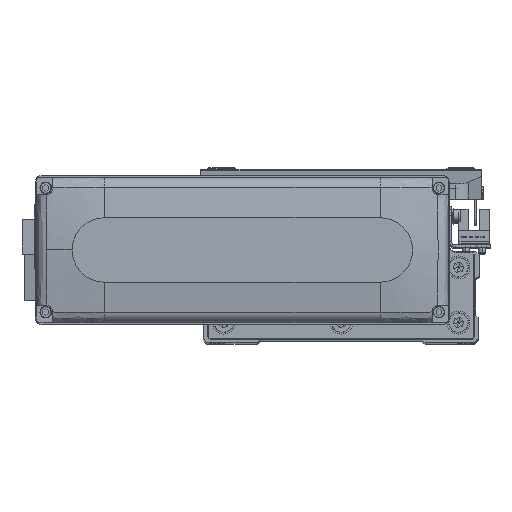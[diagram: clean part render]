
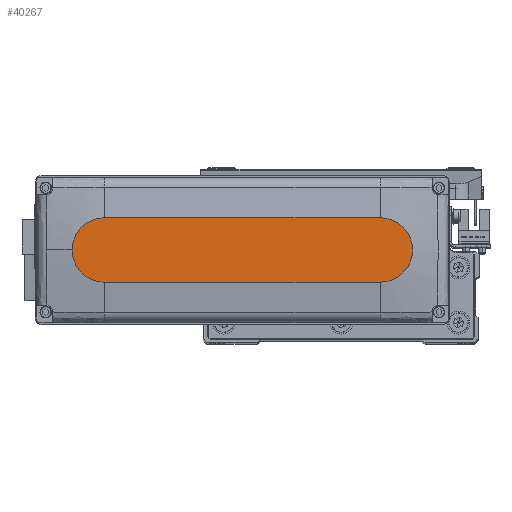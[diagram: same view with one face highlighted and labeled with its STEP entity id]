
A CAD part, top view. The second image highlights one B-rep face of the part: STEP entity #40267.
In plain terms, the highlighted planar face has unit normal (0, 0, 1).
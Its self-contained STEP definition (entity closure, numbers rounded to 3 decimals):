
#297 = AXIS2_PLACEMENT_3D ( 'NONE', #13421, #26887, #40325 ) ;
#946 = ORIENTED_EDGE ( 'NONE', *, *, #31820, .T. ) ;
#1190 = VECTOR ( 'NONE', #21886, 1000. ) ;
#2775 = CARTESIAN_POINT ( 'NONE',  ( -60., 14., 28.5 ) ) ;
#4439 = CIRCLE ( 'NONE', #29207, 14. ) ;
#6545 = AXIS2_PLACEMENT_3D ( 'NONE', #24122, #37551, #7291 ) ;
#6913 = DIRECTION ( 'NONE',  ( 0., 0., 1. ) ) ;
#7291 = DIRECTION ( 'NONE',  ( 1., 0., 0. ) ) ;
#7824 = ORIENTED_EDGE ( 'NONE', *, *, #20619, .T. ) ;
#8365 = CARTESIAN_POINT ( 'NONE',  ( -60., 14., 28.5 ) ) ;
#9537 = CARTESIAN_POINT ( 'NONE',  ( 60., -14., 28.5 ) ) ;
#10631 = PLANE ( 'NONE',  #6545 ) ;
#11690 = DIRECTION ( 'NONE',  ( 0., 0., 1. ) ) ;
#13421 = CARTESIAN_POINT ( 'NONE',  ( 60., 0., 28.5 ) ) ;
#13519 = EDGE_LOOP ( 'NONE', ( #946, #28706, #21176, #34456, #7824 ) ) ;
#14133 = LINE ( 'NONE', #27599, #32281 ) ;
#18635 = VERTEX_POINT ( 'NONE', #2775 ) ;
#19148 = AXIS2_PLACEMENT_3D ( 'NONE', #37191, #6913, #20462 ) ;
#20462 = DIRECTION ( 'NONE',  ( 1., 0., 0. ) ) ;
#20619 = EDGE_CURVE ( 'NONE', #32866, #31088, #38502, .T. ) ;
#21176 = ORIENTED_EDGE ( 'NONE', *, *, #22192, .T. ) ;
#21886 = DIRECTION ( 'NONE',  ( -1., 0., 0. ) ) ;
#22192 = EDGE_CURVE ( 'NONE', #39740, #39298, #14133, .T. ) ;
#22804 = CARTESIAN_POINT ( 'NONE',  ( 74., 0., 28.5 ) ) ;
#24122 = CARTESIAN_POINT ( 'NONE',  ( 0., 0., 28.5 ) ) ;
#25172 = DIRECTION ( 'NONE',  ( 1., 0., 0. ) ) ;
#26887 = DIRECTION ( 'NONE',  ( 0., 0., 1. ) ) ;
#27599 = CARTESIAN_POINT ( 'NONE',  ( -60., -14., 28.5 ) ) ;
#28706 = ORIENTED_EDGE ( 'NONE', *, *, #42224, .T. ) ;
#29207 = AXIS2_PLACEMENT_3D ( 'NONE', #41907, #11690, #25172 ) ;
#30323 = CARTESIAN_POINT ( 'NONE',  ( 60., 14., 28.5 ) ) ;
#31088 = VERTEX_POINT ( 'NONE', #30323 ) ;
#31820 = EDGE_CURVE ( 'NONE', #31088, #18635, #38621, .T. ) ;
#32281 = VECTOR ( 'NONE', #41023, 1000. ) ;
#32866 = VERTEX_POINT ( 'NONE', #22804 ) ;
#33649 = CARTESIAN_POINT ( 'NONE',  ( -60., -14., 28.5 ) ) ;
#34456 = ORIENTED_EDGE ( 'NONE', *, *, #43005, .T. ) ;
#37191 = CARTESIAN_POINT ( 'NONE',  ( 60., 0., 28.5 ) ) ;
#37551 = DIRECTION ( 'NONE',  ( 0., 0., 1. ) ) ;
#38126 = CIRCLE ( 'NONE', #19148, 14. ) ;
#38502 = CIRCLE ( 'NONE', #297, 14. ) ;
#38621 = LINE ( 'NONE', #8365, #1190 ) ;
#39298 = VERTEX_POINT ( 'NONE', #9537 ) ;
#39740 = VERTEX_POINT ( 'NONE', #33649 ) ;
#40267 = ADVANCED_FACE ( 'NONE', ( #40860 ), #10631, .T. ) ;
#40325 = DIRECTION ( 'NONE',  ( 1., 0., 0. ) ) ;
#40860 = FACE_OUTER_BOUND ( 'NONE', #13519, .T. ) ;
#41023 = DIRECTION ( 'NONE',  ( 1., 0., 0. ) ) ;
#41907 = CARTESIAN_POINT ( 'NONE',  ( -60., 0., 28.5 ) ) ;
#42224 = EDGE_CURVE ( 'NONE', #18635, #39740, #4439, .T. ) ;
#43005 = EDGE_CURVE ( 'NONE', #39298, #32866, #38126, .T. ) ;
